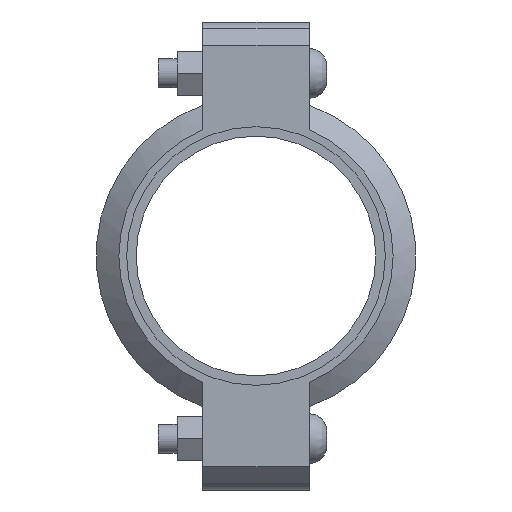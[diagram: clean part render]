
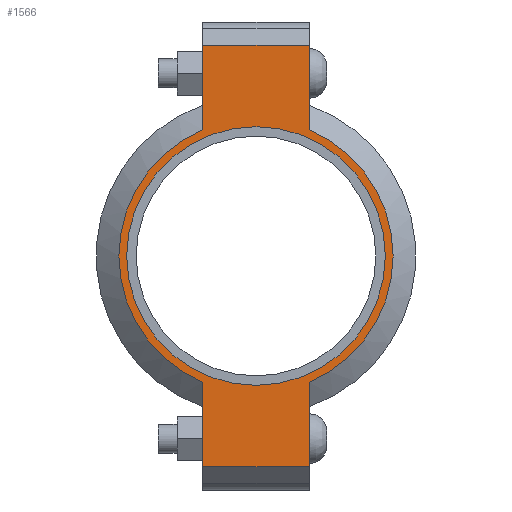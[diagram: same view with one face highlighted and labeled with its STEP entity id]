
A CAD part, left-side view. The second image highlights one B-rep face of the part: STEP entity #1566.
In plain terms, the highlighted planar face has unit normal (-1, 0, 0) as drawn and (0, 0, 1) by its records, which use the part's own axes.
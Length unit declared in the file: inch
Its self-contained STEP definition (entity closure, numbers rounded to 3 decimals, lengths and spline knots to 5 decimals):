
#190=LINE('',#2733,#283);
#198=LINE('',#2769,#291);
#205=LINE('',#2790,#298);
#214=LINE('',#2822,#307);
#215=LINE('',#2826,#308);
#216=LINE('',#2828,#309);
#283=VECTOR('',#2225,0.3937);
#291=VECTOR('',#2241,0.3937);
#298=VECTOR('',#2260,0.3937);
#307=VECTOR('',#2285,0.3937);
#308=VECTOR('',#2290,0.3937);
#309=VECTOR('',#2291,0.3937);
#365=FACE_BOUND('',#543,.T.);
#437=FACE_OUTER_BOUND('',#542,.T.);
#542=EDGE_LOOP('',(#1307,#1308,#1309,#1310,#1311,#1312,#1313,#1314));
#543=EDGE_LOOP('',(#1315));
#615=CIRCLE('',#1785,2.7815);
#641=CIRCLE('',#1844,2.95);
#642=CIRCLE('',#1845,2.95);
#707=VERTEX_POINT('',#2549);
#750=VERTEX_POINT('',#2730);
#751=VERTEX_POINT('',#2732);
#762=VERTEX_POINT('',#2764);
#763=VERTEX_POINT('',#2768);
#770=VERTEX_POINT('',#2787);
#771=VERTEX_POINT('',#2789);
#781=VERTEX_POINT('',#2825);
#782=VERTEX_POINT('',#2827);
#863=EDGE_CURVE('',#707,#707,#615,.T.);
#924=EDGE_CURVE('',#751,#750,#190,.T.);
#938=EDGE_CURVE('',#763,#762,#198,.T.);
#948=EDGE_CURVE('',#771,#770,#205,.T.);
#963=EDGE_CURVE('',#763,#750,#214,.T.);
#964=EDGE_CURVE('',#762,#771,#641,.T.);
#965=EDGE_CURVE('',#781,#770,#215,.T.);
#966=EDGE_CURVE('',#781,#782,#216,.T.);
#967=EDGE_CURVE('',#782,#751,#642,.T.);
#1307=ORIENTED_EDGE('',*,*,#963,.F.);
#1308=ORIENTED_EDGE('',*,*,#938,.T.);
#1309=ORIENTED_EDGE('',*,*,#964,.T.);
#1310=ORIENTED_EDGE('',*,*,#948,.T.);
#1311=ORIENTED_EDGE('',*,*,#965,.F.);
#1312=ORIENTED_EDGE('',*,*,#966,.T.);
#1313=ORIENTED_EDGE('',*,*,#967,.T.);
#1314=ORIENTED_EDGE('',*,*,#924,.T.);
#1315=ORIENTED_EDGE('',*,*,#863,.T.);
#1408=PLANE('',#1843);
#1566=ADVANCED_FACE('',(#437,#365),#1408,.T.);
#1785=AXIS2_PLACEMENT_3D('',#2551,#2101,#2102);
#1843=AXIS2_PLACEMENT_3D('',#2823,#2286,#2287);
#1844=AXIS2_PLACEMENT_3D('',#2824,#2288,#2289);
#1845=AXIS2_PLACEMENT_3D('',#2829,#2292,#2293);
#2101=DIRECTION('center_axis',(0.,0.,-1.));
#2102=DIRECTION('ref_axis',(-1.,0.,0.));
#2225=DIRECTION('',(-1.,0.,0.));
#2241=DIRECTION('',(1.,0.,0.));
#2260=DIRECTION('',(1.,0.,0.));
#2285=DIRECTION('',(0.,1.,0.));
#2286=DIRECTION('center_axis',(0.,0.,1.));
#2287=DIRECTION('ref_axis',(1.,0.,0.));
#2288=DIRECTION('center_axis',(0.,0.,1.));
#2289=DIRECTION('ref_axis',(-1.,0.,0.));
#2290=DIRECTION('',(0.,-1.,0.));
#2291=DIRECTION('',(-1.,0.,0.));
#2292=DIRECTION('center_axis',(0.,0.,1.));
#2293=DIRECTION('ref_axis',(-1.,0.,0.));
#2549=CARTESIAN_POINT('',(2.7815,0.,1.065));
#2551=CARTESIAN_POINT('Origin',(0.,0.,1.065));
#2730=CARTESIAN_POINT('',(-4.535,1.15,1.065));
#2732=CARTESIAN_POINT('',(-2.71662,1.15,1.065));
#2733=CARTESIAN_POINT('',(-5.035,1.15,1.065));
#2764=CARTESIAN_POINT('',(-2.71662,-1.15,1.065));
#2768=CARTESIAN_POINT('',(-4.535,-1.15,1.065));
#2769=CARTESIAN_POINT('',(5.035,-1.15,1.065));
#2787=CARTESIAN_POINT('',(4.535,-1.15,1.065));
#2789=CARTESIAN_POINT('',(2.71662,-1.15,1.065));
#2790=CARTESIAN_POINT('',(5.035,-1.15,1.065));
#2822=CARTESIAN_POINT('',(-4.535,0.575,1.065));
#2823=CARTESIAN_POINT('Origin',(0.,0.,1.065));
#2824=CARTESIAN_POINT('Origin',(0.,0.,1.065));
#2825=CARTESIAN_POINT('',(4.535,1.15,1.065));
#2826=CARTESIAN_POINT('',(4.535,-0.575,1.065));
#2827=CARTESIAN_POINT('',(2.71662,1.15,1.065));
#2828=CARTESIAN_POINT('',(-5.035,1.15,1.065));
#2829=CARTESIAN_POINT('Origin',(0.,0.,1.065));
